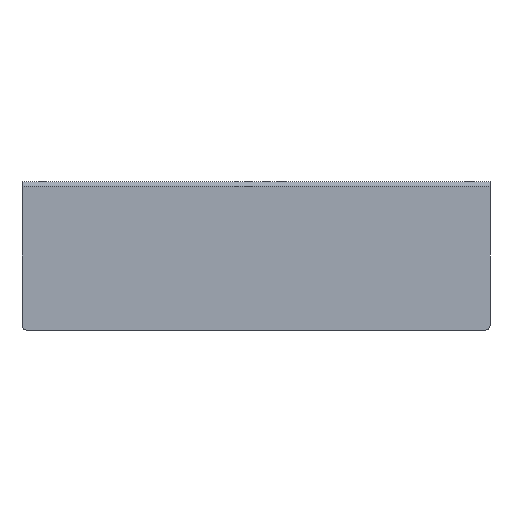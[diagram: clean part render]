
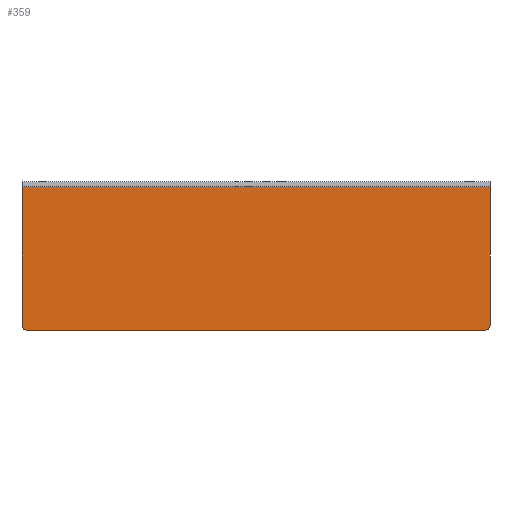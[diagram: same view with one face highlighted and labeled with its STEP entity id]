
A CAD part, front view. The second image highlights one B-rep face of the part: STEP entity #359.
In plain terms, the highlighted planar face has unit normal (0, -1, 0).
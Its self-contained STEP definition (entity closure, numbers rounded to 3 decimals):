
#32 = PLANE('',#33);
#33 = AXIS2_PLACEMENT_3D('',#34,#35,#36);
#34 = CARTESIAN_POINT('',(-3.,1.5,56.));
#35 = DIRECTION('',(1.,0.,0.));
#36 = DIRECTION('',(0.,0.,-1.));
#57 = VERTEX_POINT('',#58);
#58 = CARTESIAN_POINT('',(-3.,0.5,56.));
#84 = EDGE_CURVE('',#57,#85,#87,.T.);
#85 = VERTEX_POINT('',#86);
#86 = CARTESIAN_POINT('',(-3.,0.5,1.));
#87 = SURFACE_CURVE('',#88,(#92,#99),.PCURVE_S1.);
#88 = LINE('',#89,#90);
#89 = CARTESIAN_POINT('',(-3.,0.5,56.));
#90 = VECTOR('',#91,1.);
#91 = DIRECTION('',(0.,0.,-1.));
#92 = PCURVE('',#32,#93);
#93 = DEFINITIONAL_REPRESENTATION('',(#94),#98);
#94 = LINE('',#95,#96);
#95 = CARTESIAN_POINT('',(0.,-1.));
#96 = VECTOR('',#97,1.);
#97 = DIRECTION('',(1.,0.));
#98 = ( GEOMETRIC_REPRESENTATION_CONTEXT(2) 
PARAMETRIC_REPRESENTATION_CONTEXT() REPRESENTATION_CONTEXT('2D SPACE',''
  ) );
#99 = PCURVE('',#100,#105);
#100 = PLANE('',#101);
#101 = AXIS2_PLACEMENT_3D('',#102,#103,#104);
#102 = CARTESIAN_POINT('',(90.,0.5,27.5));
#103 = DIRECTION('',(0.,-1.,0.));
#104 = DIRECTION('',(1.,0.,0.));
#105 = DEFINITIONAL_REPRESENTATION('',(#106),#110);
#106 = LINE('',#107,#108);
#107 = CARTESIAN_POINT('',(-93.,28.5));
#108 = VECTOR('',#109,1.);
#109 = DIRECTION('',(0.,-1.));
#110 = ( GEOMETRIC_REPRESENTATION_CONTEXT(2) 
PARAMETRIC_REPRESENTATION_CONTEXT() REPRESENTATION_CONTEXT('2D SPACE',''
  ) );
#126 = CYLINDRICAL_SURFACE('',#127,2.);
#127 = AXIS2_PLACEMENT_3D('',#128,#129,#130);
#128 = CARTESIAN_POINT('',(-1.,1.5,1.));
#129 = DIRECTION('',(0.,-1.,0.));
#130 = DIRECTION('',(-1.,0.,0.));
#182 = PLANE('',#183);
#183 = AXIS2_PLACEMENT_3D('',#184,#185,#186);
#184 = CARTESIAN_POINT('',(-3.,1.5,-1.));
#185 = DIRECTION('',(0.,0.,1.));
#186 = DIRECTION('',(1.,0.,0.));
#211 = CYLINDRICAL_SURFACE('',#212,2.);
#212 = AXIS2_PLACEMENT_3D('',#213,#214,#215);
#213 = CARTESIAN_POINT('',(181.,1.5,1.));
#214 = DIRECTION('',(0.,-1.,0.));
#215 = DIRECTION('',(0.,0.,-1.));
#239 = PLANE('',#240);
#240 = AXIS2_PLACEMENT_3D('',#241,#242,#243);
#241 = CARTESIAN_POINT('',(183.,1.5,-1.));
#242 = DIRECTION('',(-1.,0.,0.));
#243 = DIRECTION('',(0.,0.,1.));
#322 = CYLINDRICAL_SURFACE('',#323,2.);
#323 = AXIS2_PLACEMENT_3D('',#324,#325,#326);
#324 = CARTESIAN_POINT('',(-3.,2.5,56.));
#325 = DIRECTION('',(1.,0.,0.));
#326 = DIRECTION('',(0.,0.,1.));
#359 = ADVANCED_FACE('',(#360),#100,.T.);
#360 = FACE_BOUND('',#361,.T.);
#361 = EDGE_LOOP('',(#362,#363,#387,#410,#434,#457));
#362 = ORIENTED_EDGE('',*,*,#84,.T.);
#363 = ORIENTED_EDGE('',*,*,#364,.T.);
#364 = EDGE_CURVE('',#85,#365,#367,.T.);
#365 = VERTEX_POINT('',#366);
#366 = CARTESIAN_POINT('',(-1.,0.5,-1.));
#367 = SURFACE_CURVE('',#368,(#373,#380),.PCURVE_S1.);
#368 = CIRCLE('',#369,2.);
#369 = AXIS2_PLACEMENT_3D('',#370,#371,#372);
#370 = CARTESIAN_POINT('',(-1.,0.5,1.));
#371 = DIRECTION('',(0.,-1.,0.));
#372 = DIRECTION('',(0.,0.,-1.));
#373 = PCURVE('',#100,#374);
#374 = DEFINITIONAL_REPRESENTATION('',(#375),#379);
#375 = CIRCLE('',#376,2.);
#376 = AXIS2_PLACEMENT_2D('',#377,#378);
#377 = CARTESIAN_POINT('',(-91.,-26.5));
#378 = DIRECTION('',(0.,-1.));
#379 = ( GEOMETRIC_REPRESENTATION_CONTEXT(2) 
PARAMETRIC_REPRESENTATION_CONTEXT() REPRESENTATION_CONTEXT('2D SPACE',''
  ) );
#380 = PCURVE('',#126,#381);
#381 = DEFINITIONAL_REPRESENTATION('',(#382),#386);
#382 = LINE('',#383,#384);
#383 = CARTESIAN_POINT('',(-4.712,1.));
#384 = VECTOR('',#385,1.);
#385 = DIRECTION('',(1.,0.));
#386 = ( GEOMETRIC_REPRESENTATION_CONTEXT(2) 
PARAMETRIC_REPRESENTATION_CONTEXT() REPRESENTATION_CONTEXT('2D SPACE',''
  ) );
#387 = ORIENTED_EDGE('',*,*,#388,.T.);
#388 = EDGE_CURVE('',#365,#389,#391,.T.);
#389 = VERTEX_POINT('',#390);
#390 = CARTESIAN_POINT('',(181.,0.5,-1.));
#391 = SURFACE_CURVE('',#392,(#396,#403),.PCURVE_S1.);
#392 = LINE('',#393,#394);
#393 = CARTESIAN_POINT('',(-3.,0.5,-1.));
#394 = VECTOR('',#395,1.);
#395 = DIRECTION('',(1.,0.,0.));
#396 = PCURVE('',#100,#397);
#397 = DEFINITIONAL_REPRESENTATION('',(#398),#402);
#398 = LINE('',#399,#400);
#399 = CARTESIAN_POINT('',(-93.,-28.5));
#400 = VECTOR('',#401,1.);
#401 = DIRECTION('',(1.,0.));
#402 = ( GEOMETRIC_REPRESENTATION_CONTEXT(2) 
PARAMETRIC_REPRESENTATION_CONTEXT() REPRESENTATION_CONTEXT('2D SPACE',''
  ) );
#403 = PCURVE('',#182,#404);
#404 = DEFINITIONAL_REPRESENTATION('',(#405),#409);
#405 = LINE('',#406,#407);
#406 = CARTESIAN_POINT('',(0.,-1.));
#407 = VECTOR('',#408,1.);
#408 = DIRECTION('',(1.,0.));
#409 = ( GEOMETRIC_REPRESENTATION_CONTEXT(2) 
PARAMETRIC_REPRESENTATION_CONTEXT() REPRESENTATION_CONTEXT('2D SPACE',''
  ) );
#410 = ORIENTED_EDGE('',*,*,#411,.T.);
#411 = EDGE_CURVE('',#389,#412,#414,.T.);
#412 = VERTEX_POINT('',#413);
#413 = CARTESIAN_POINT('',(183.,0.5,1.));
#414 = SURFACE_CURVE('',#415,(#420,#427),.PCURVE_S1.);
#415 = CIRCLE('',#416,2.);
#416 = AXIS2_PLACEMENT_3D('',#417,#418,#419);
#417 = CARTESIAN_POINT('',(181.,0.5,1.));
#418 = DIRECTION('',(0.,-1.,0.));
#419 = DIRECTION('',(0.,0.,-1.));
#420 = PCURVE('',#100,#421);
#421 = DEFINITIONAL_REPRESENTATION('',(#422),#426);
#422 = CIRCLE('',#423,2.);
#423 = AXIS2_PLACEMENT_2D('',#424,#425);
#424 = CARTESIAN_POINT('',(91.,-26.5));
#425 = DIRECTION('',(0.,-1.));
#426 = ( GEOMETRIC_REPRESENTATION_CONTEXT(2) 
PARAMETRIC_REPRESENTATION_CONTEXT() REPRESENTATION_CONTEXT('2D SPACE',''
  ) );
#427 = PCURVE('',#211,#428);
#428 = DEFINITIONAL_REPRESENTATION('',(#429),#433);
#429 = LINE('',#430,#431);
#430 = CARTESIAN_POINT('',(0.,1.));
#431 = VECTOR('',#432,1.);
#432 = DIRECTION('',(1.,0.));
#433 = ( GEOMETRIC_REPRESENTATION_CONTEXT(2) 
PARAMETRIC_REPRESENTATION_CONTEXT() REPRESENTATION_CONTEXT('2D SPACE',''
  ) );
#434 = ORIENTED_EDGE('',*,*,#435,.T.);
#435 = EDGE_CURVE('',#412,#436,#438,.T.);
#436 = VERTEX_POINT('',#437);
#437 = CARTESIAN_POINT('',(183.,0.5,56.));
#438 = SURFACE_CURVE('',#439,(#443,#450),.PCURVE_S1.);
#439 = LINE('',#440,#441);
#440 = CARTESIAN_POINT('',(183.,0.5,-1.));
#441 = VECTOR('',#442,1.);
#442 = DIRECTION('',(0.,0.,1.));
#443 = PCURVE('',#100,#444);
#444 = DEFINITIONAL_REPRESENTATION('',(#445),#449);
#445 = LINE('',#446,#447);
#446 = CARTESIAN_POINT('',(93.,-28.5));
#447 = VECTOR('',#448,1.);
#448 = DIRECTION('',(0.,1.));
#449 = ( GEOMETRIC_REPRESENTATION_CONTEXT(2) 
PARAMETRIC_REPRESENTATION_CONTEXT() REPRESENTATION_CONTEXT('2D SPACE',''
  ) );
#450 = PCURVE('',#239,#451);
#451 = DEFINITIONAL_REPRESENTATION('',(#452),#456);
#452 = LINE('',#453,#454);
#453 = CARTESIAN_POINT('',(0.,-1.));
#454 = VECTOR('',#455,1.);
#455 = DIRECTION('',(1.,0.));
#456 = ( GEOMETRIC_REPRESENTATION_CONTEXT(2) 
PARAMETRIC_REPRESENTATION_CONTEXT() REPRESENTATION_CONTEXT('2D SPACE',''
  ) );
#457 = ORIENTED_EDGE('',*,*,#458,.F.);
#458 = EDGE_CURVE('',#57,#436,#459,.T.);
#459 = SURFACE_CURVE('',#460,(#464,#471),.PCURVE_S1.);
#460 = LINE('',#461,#462);
#461 = CARTESIAN_POINT('',(-3.,0.5,56.));
#462 = VECTOR('',#463,1.);
#463 = DIRECTION('',(1.,0.,0.));
#464 = PCURVE('',#100,#465);
#465 = DEFINITIONAL_REPRESENTATION('',(#466),#470);
#466 = LINE('',#467,#468);
#467 = CARTESIAN_POINT('',(-93.,28.5));
#468 = VECTOR('',#469,1.);
#469 = DIRECTION('',(1.,0.));
#470 = ( GEOMETRIC_REPRESENTATION_CONTEXT(2) 
PARAMETRIC_REPRESENTATION_CONTEXT() REPRESENTATION_CONTEXT('2D SPACE',''
  ) );
#471 = PCURVE('',#322,#472);
#472 = DEFINITIONAL_REPRESENTATION('',(#473),#477);
#473 = LINE('',#474,#475);
#474 = CARTESIAN_POINT('',(1.571,0.));
#475 = VECTOR('',#476,1.);
#476 = DIRECTION('',(0.,1.));
#477 = ( GEOMETRIC_REPRESENTATION_CONTEXT(2) 
PARAMETRIC_REPRESENTATION_CONTEXT() REPRESENTATION_CONTEXT('2D SPACE',''
  ) );
